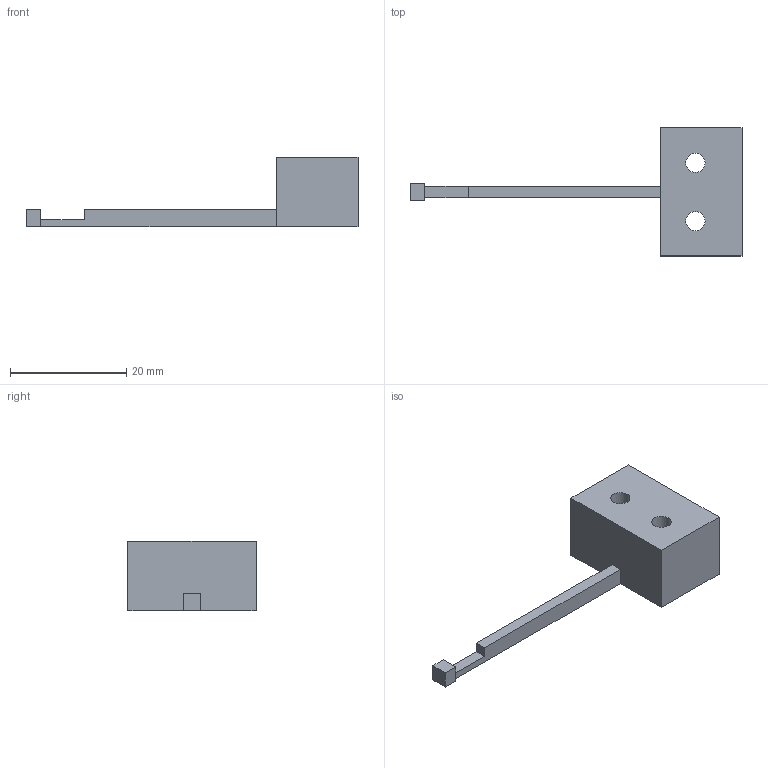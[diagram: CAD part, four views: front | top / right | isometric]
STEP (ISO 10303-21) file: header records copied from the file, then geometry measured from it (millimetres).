
FILE_DESCRIPTION(('Open CASCADE Model'),'2;1');
FILE_NAME('Open CASCADE Shape Model','2026-11-08T05:54:15',('Author'),( 'Open CASCADE'),'Open CASCADE STEP processor 7.8','Open CASCADE 7.8' ,'Unknown');
FILE_SCHEMA(('AUTOMOTIVE_DESIGN { 1 0 10303 214 1 1 1 1 }'));
Length unit declared in the file: millimetre
Products named in the file (1): Open CASCADE STEP translator 7.8 7
Bounding box: 57.05 x 22 x 12 mm (x, y, z)
Volume: 3729.3 mm3; surface area: 2116.1 mm2
Topology: 1 solids, 1 shells, 18 faces, 48 edges, 32 vertices
Faces by surface type: plane 16, cylinder 2
Full cylindrical faces by diameter (mm): 3.3 x2
Entity records: 1190 total; most frequent: CARTESIAN_POINT 203, DIRECTION 178, LINE 128, VECTOR 128, ORIENTED_EDGE 96, PCURVE 96, DEFINITIONAL_REPRESENTATION 96, EDGE_CURVE 48
